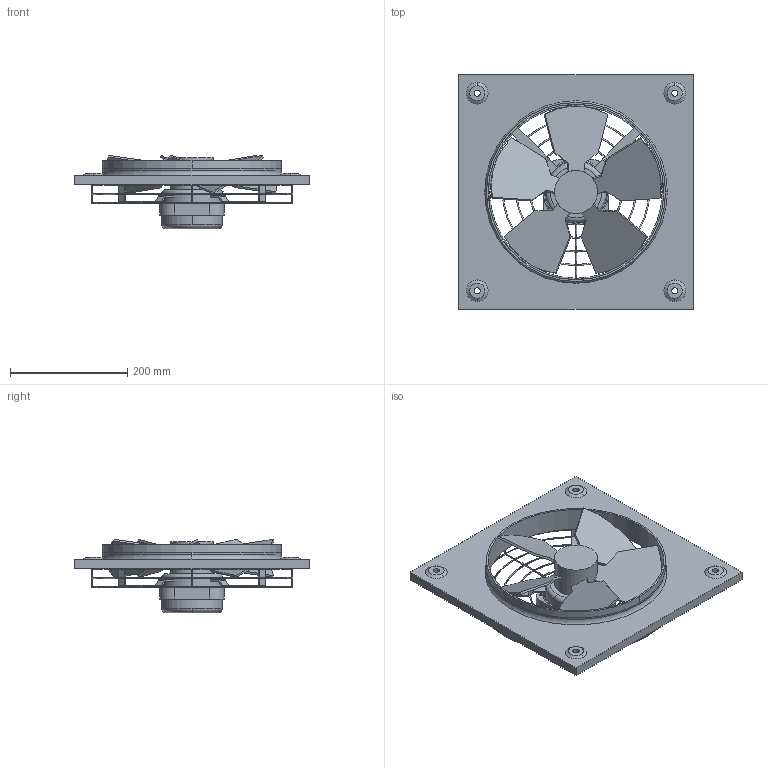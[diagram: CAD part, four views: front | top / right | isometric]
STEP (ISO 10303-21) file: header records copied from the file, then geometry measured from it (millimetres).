
FILE_DESCRIPTION(('STEP AP214'),'1');
FILE_NAME('fan_5110006300.stp','2017-06-30T15:25:20',('TraceParts'),('TraceParts S.A.'),'Spatial InterOp 3D',' ',' ');
FILE_SCHEMA(('automotive_design'));
Length unit declared in the file: millimetre
Products named in the file (1): fan_5110006300
Bounding box: 400 x 400 x 124.97 mm (x, y, z)
Volume: 2557503.5 mm3; surface area: 482353.9 mm2
Topology: 1 solids, 1 shells, 296 faces, 839 edges, 507 vertices
Faces by surface type: plane 109, cylinder 103, torus 68, cone 16
Entity records: 17504 total; most frequent: CARTESIAN_POINT 7619, ORIENTED_EDGE 1678, DIRECTION 1462, EDGE_CURVE 839, AXIS2_PLACEMENT_3D 558, VERTEX_POINT 507, LINE 346, VECTOR 346
